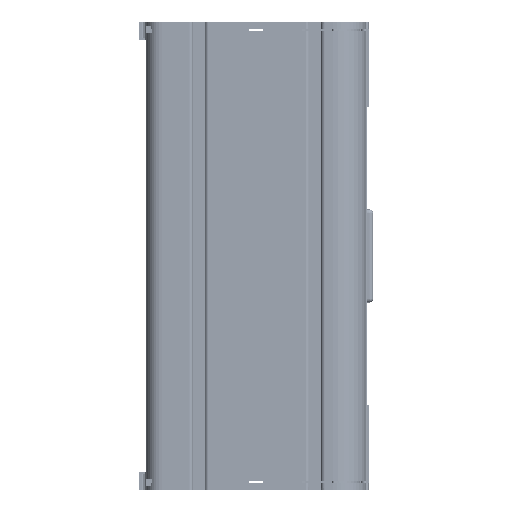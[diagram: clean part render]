
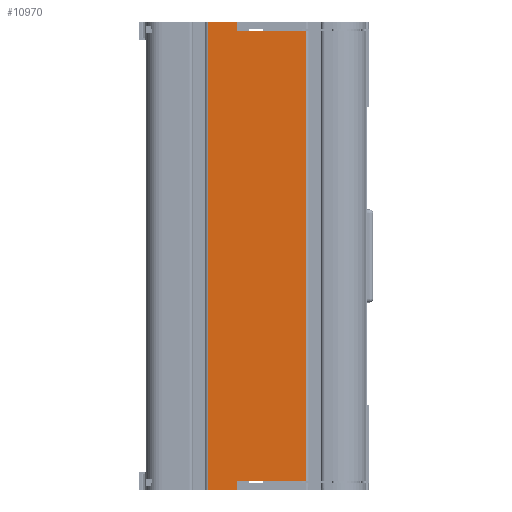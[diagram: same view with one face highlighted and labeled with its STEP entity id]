
A CAD part, front view. The second image highlights one B-rep face of the part: STEP entity #10970.
In plain terms, the highlighted planar face has unit normal (0, -1, 0).
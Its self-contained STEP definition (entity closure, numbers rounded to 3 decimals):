
#10970=ADVANCED_FACE('',(#16173),#14041,.F.);
#14041=PLANE('',#63579);
#16173=FACE_OUTER_BOUND('',#18793,.T.);
#18793=EDGE_LOOP('',(#22962,#22963,#22964,#22965,#22966,#22967,#22968,#22969));
#22962=ORIENTED_EDGE('',*,*,#44028,.F.);
#22963=ORIENTED_EDGE('',*,*,#44029,.T.);
#22964=ORIENTED_EDGE('',*,*,#44030,.F.);
#22965=ORIENTED_EDGE('',*,*,#44031,.T.);
#22966=ORIENTED_EDGE('',*,*,#44032,.T.);
#22967=ORIENTED_EDGE('',*,*,#44033,.F.);
#22968=ORIENTED_EDGE('',*,*,#44034,.T.);
#22969=ORIENTED_EDGE('',*,*,#44035,.T.);
#38520=VERTEX_POINT('',#81450);
#38521=VERTEX_POINT('',#81451);
#38522=VERTEX_POINT('',#81453);
#38523=VERTEX_POINT('',#81455);
#38524=VERTEX_POINT('',#81457);
#38525=VERTEX_POINT('',#81459);
#38526=VERTEX_POINT('',#81461);
#38527=VERTEX_POINT('',#81463);
#44028=EDGE_CURVE('',#38520,#38521,#51973,.T.);
#44029=EDGE_CURVE('',#38520,#38522,#51974,.T.);
#44030=EDGE_CURVE('',#38523,#38522,#51975,.T.);
#44031=EDGE_CURVE('',#38523,#38524,#51976,.T.);
#44032=EDGE_CURVE('',#38524,#38525,#51977,.T.);
#44033=EDGE_CURVE('',#38526,#38525,#51978,.T.);
#44034=EDGE_CURVE('',#38526,#38527,#51979,.T.);
#44035=EDGE_CURVE('',#38527,#38521,#51980,.T.);
#51973=LINE('',#81449,#57303);
#51974=LINE('',#81452,#57304);
#51975=LINE('',#81454,#57305);
#51976=LINE('',#81456,#57306);
#51977=LINE('',#81458,#57307);
#51978=LINE('',#81460,#57308);
#51979=LINE('',#81462,#57309);
#51980=LINE('',#81464,#57310);
#57303=VECTOR('',#67957,1.);
#57304=VECTOR('',#67958,1.);
#57305=VECTOR('',#67959,1.);
#57306=VECTOR('',#67960,1.);
#57307=VECTOR('',#67961,1.);
#57308=VECTOR('',#67962,1.);
#57309=VECTOR('',#67963,1.);
#57310=VECTOR('',#67964,1.);
#63579=AXIS2_PLACEMENT_3D('',#81465,#67965,#67966);
#67957=DIRECTION('',(-1.,0.,0.));
#67958=DIRECTION('',(0.,0.,1.));
#67959=DIRECTION('',(-1.,0.,0.));
#67960=DIRECTION('',(0.,0.,1.));
#67961=DIRECTION('',(-1.,0.,0.));
#67962=DIRECTION('',(0.,0.,-1.));
#67963=DIRECTION('',(-1.,0.,0.));
#67964=DIRECTION('',(0.,0.,-1.));
#67965=DIRECTION('',(0.,1.,0.));
#67966=DIRECTION('',(0.,0.,1.));
#81449=CARTESIAN_POINT('',(66.574,-2.624,-23.999));
#81450=CARTESIAN_POINT('',(-5.447,-2.624,-23.999));
#81451=CARTESIAN_POINT('',(-16.747,-2.624,-23.999));
#81452=CARTESIAN_POINT('',(-5.447,-2.624,80.925));
#81453=CARTESIAN_POINT('',(-5.447,-2.624,-20.499));
#81454=CARTESIAN_POINT('',(66.574,-2.624,-20.499));
#81455=CARTESIAN_POINT('',(21.053,-2.624,-20.499));
#81456=CARTESIAN_POINT('',(21.053,-2.624,-208.));
#81457=CARTESIAN_POINT('',(21.053,-2.624,154.501));
#81458=CARTESIAN_POINT('',(66.574,-2.624,154.501));
#81459=CARTESIAN_POINT('',(-5.447,-2.624,154.501));
#81460=CARTESIAN_POINT('',(-5.447,-2.624,192.));
#81461=CARTESIAN_POINT('',(-5.447,-2.624,158.001));
#81462=CARTESIAN_POINT('',(66.574,-2.624,158.001));
#81463=CARTESIAN_POINT('',(-16.747,-2.624,158.001));
#81464=CARTESIAN_POINT('',(-16.747,-2.624,-323.));
#81465=CARTESIAN_POINT('',(66.574,-2.624,192.));
